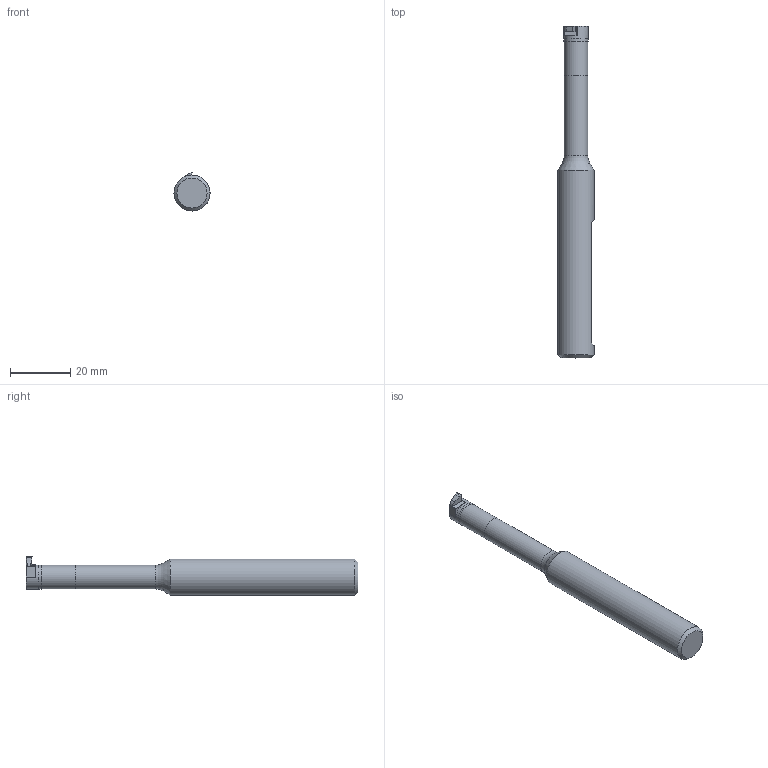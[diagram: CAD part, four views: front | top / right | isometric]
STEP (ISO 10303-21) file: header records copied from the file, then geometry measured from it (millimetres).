
FILE_DESCRIPTION(/* description */ (''),/* implementation_level */ '2;1');
FILE_NAME(/* name */ 'WC_11412Ca.stp',/* time_stamp */ '2021-09-17T11:18:00+09:00',/* author */ (''),/* organization */ (''),/* preprocessor_version */ 'ST-DEVELOPER v11',/* originating_system */ 'SIEMENS UGS NX 6.0',/* authorisation */ '');
FILE_SCHEMA (('CONFIG_CONTROL_DESIGN'));
Length unit declared in the file: millimetre
Products named in the file (1): userD4E8jueh
Bounding box: 12 x 110.46 x 12.7 mm (x, y, z)
Volume: 9386.3 mm3; surface area: 3961.2 mm2
Topology: 3 solids, 3 shells, 32 faces, 71 edges, 46 vertices
Faces by surface type: plane 22, cylinder 7, cone 2, torus 1
Full cylindrical faces by diameter (mm): 7.9 x2, 8 x1, 12 x1
Entity records: 908 total; most frequent: DIRECTION 152, CARTESIAN_POINT 137, ORIENTED_EDGE 122, EDGE_CURVE 61, AXIS2_PLACEMENT_3D 58, VERTEX_POINT 43, EDGE_LOOP 40, LINE 36
